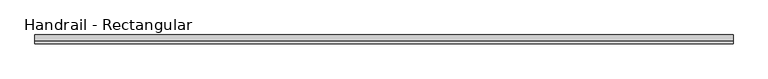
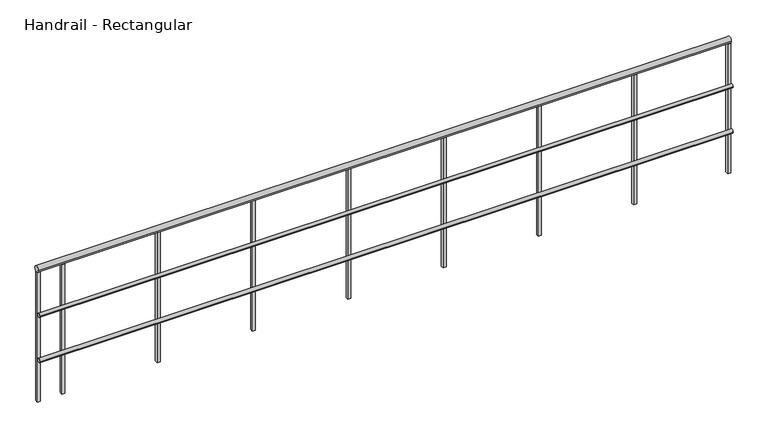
"""IFC4 building model written with IfcOpenShell, lengths in millimetres: railing geometry, Handrail - Rectangular."""

from ifc_helpers import new_model, si_unit, point, frame, frame_2d, origin, place, context, project, spatial, polyline, circle_curve, trimmed, segment, composite_curve, outline, extrude, source, transform, mapped, element, save


def handrail_rectangular_58c217f0(model_context):
    return source(origin(), model_context, "Body", "SweptSolid", [
        extrude(outline(composite_curve([segment(trimmed(circle_curve(frame_2d((-35578.5683133, 9740.9)), 12.7), [point((-35591.2683133, 9740.9))], [point((-35565.8683133, 9740.9))], False, "CARTESIAN"), True, "CONTINUOUS"), segment(trimmed(circle_curve(frame_2d((-35578.5683133, 9740.9)), 12.7), [point((-35565.8683133, 9740.9))], [point((-35591.2683133, 9740.9))], False, "CARTESIAN"), True, "CONTINUOUS")], self_intersect=False)), frame((-30440.2839563, 0.0, 0.0), z_axis=(1.0, 0.0, 0.0), x_axis=(0.0, 1.0, 0.0)), (0.0, 0.0, 1.0), 4432.3),
        extrude(outline(composite_curve([segment(trimmed(circle_curve(frame_2d((-35578.5683133, 9436.1)), 12.7), [point((-35591.2683133, 9436.1))], [point((-35565.8683133, 9436.1))], False, "CARTESIAN"), True, "CONTINUOUS"), segment(trimmed(circle_curve(frame_2d((-35578.5683133, 9436.1)), 12.7), [point((-35565.8683133, 9436.1))], [point((-35591.2683133, 9436.1))], False, "CARTESIAN"), True, "CONTINUOUS")], self_intersect=False)), frame((-30440.2839563, 0.0, 0.0), z_axis=(1.0, 0.0, 0.0), x_axis=(0.0, 1.0, 0.0)), (0.0, 0.0, 1.0), 4432.3),
        extrude(outline(composite_curve([segment(trimmed(circle_curve(frame_2d((-35553.1683133, 10039.35)), 19.05), [point((-35572.2183133, 10039.35))], [point((-35534.1183133, 10039.35))], False, "CARTESIAN"), True, "CONTINUOUS"), segment(trimmed(circle_curve(frame_2d((-35553.1683133, 10039.35)), 19.05), [point((-35534.1183133, 10039.35))], [point((-35572.2183133, 10039.35))], False, "CARTESIAN"), True, "CONTINUOUS")], self_intersect=False)), frame((-30440.2839563, 0.0, 0.0), z_axis=(1.0, 0.0, 0.0), x_axis=(0.0, 1.0, 0.0)), (0.0, 0.0, 1.0), 4432.3),
        extrude(outline(polyline([(-30265.6589563, -35543.6433133), (-30265.6589563, -35562.6933133), (-30284.7089563, -35562.6933133), (-30284.7089563, -35543.6433133), (-30265.6589563, -35543.6433133)])), frame((0.0, 0.0, 9144.0), z_axis=(0.0, 0.0, 1.0), x_axis=(1.0, 0.0, 0.0)), (0.0, 0.0, 1.0), 876.3),
        extrude(outline(polyline([(-29656.0589563, -35543.6433133), (-29656.0589563, -35562.6933133), (-29675.1089563, -35562.6933133), (-29675.1089563, -35543.6433133), (-29656.0589563, -35543.6433133)])), frame((0.0, 0.0, 9144.0), z_axis=(0.0, 0.0, 1.0), x_axis=(1.0, 0.0, 0.0)), (0.0, 0.0, 1.0), 876.3),
        extrude(outline(polyline([(-29046.4589563, -35543.6433133), (-29046.4589563, -35562.6933133), (-29065.5089563, -35562.6933133), (-29065.5089563, -35543.6433133), (-29046.4589563, -35543.6433133)])), frame((0.0, 0.0, 9144.0), z_axis=(0.0, 0.0, 1.0), x_axis=(1.0, 0.0, 0.0)), (0.0, 0.0, 1.0), 876.3),
        extrude(outline(polyline([(-28436.8589563, -35543.6433133), (-28436.8589563, -35562.6933133), (-28455.9089563, -35562.6933133), (-28455.9089563, -35543.6433133), (-28436.8589563, -35543.6433133)])), frame((0.0, 0.0, 9144.0), z_axis=(0.0, 0.0, 1.0), x_axis=(1.0, 0.0, 0.0)), (0.0, 0.0, 1.0), 876.3),
        extrude(outline(polyline([(-27827.2589563, -35543.6433133), (-27827.2589563, -35562.6933133), (-27846.3089563, -35562.6933133), (-27846.3089563, -35543.6433133), (-27827.2589563, -35543.6433133)])), frame((0.0, 0.0, 9144.0), z_axis=(0.0, 0.0, 1.0), x_axis=(1.0, 0.0, 0.0)), (0.0, 0.0, 1.0), 876.3),
        extrude(outline(polyline([(-27217.6589563, -35543.6433133), (-27217.6589563, -35562.6933133), (-27236.7089563, -35562.6933133), (-27236.7089563, -35543.6433133), (-27217.6589563, -35543.6433133)])), frame((0.0, 0.0, 9144.0), z_axis=(0.0, 0.0, 1.0), x_axis=(1.0, 0.0, 0.0)), (0.0, 0.0, 1.0), 876.3),
        extrude(outline(polyline([(-26608.0589563, -35543.6433133), (-26608.0589563, -35562.6933133), (-26627.1089563, -35562.6933133), (-26627.1089563, -35543.6433133), (-26608.0589563, -35543.6433133)])), frame((0.0, 0.0, 9144.0), z_axis=(0.0, 0.0, 1.0), x_axis=(1.0, 0.0, 0.0)), (0.0, 0.0, 1.0), 876.3),
        extrude(outline(polyline([(-30421.2339563, -35543.6433133), (-30421.2339563, -35562.6933133), (-30440.2839563, -35562.6933133), (-30440.2839563, -35543.6433133), (-30421.2339563, -35543.6433133)])), frame((0.0, 0.0, 9144.0), z_axis=(0.0, 0.0, 1.0), x_axis=(1.0, 0.0, 0.0)), (0.0, 0.0, 1.0), 876.3),
        extrude(outline(polyline([(-26007.9839563, -35543.6433133), (-26007.9839563, -35562.6933133), (-26027.0339563, -35562.6933133), (-26027.0339563, -35543.6433133), (-26007.9839563, -35543.6433133)])), frame((0.0, 0.0, 9144.0), z_axis=(0.0, 0.0, 1.0), x_axis=(1.0, 0.0, 0.0)), (0.0, 0.0, 1.0), 876.3),
    ])


if __name__ == "__main__":
    model = new_model("IFC4")
    model_context = context("Model", 3, world=origin())
    ifc_project = project(units=[si_unit("LENGTHUNIT", "METRE", prefix="MILLI")], contexts=[model_context])
    site = spatial("IfcSite", under=ifc_project)
    building = spatial("IfcBuilding", under=site)
    placement = place(None, origin())
    handrail_rectangular_shape = handrail_rectangular_58c217f0(model_context)
    element("IfcRailing", 1, ObjectType="Handrail - Rectangular", at=placement, inside=building, context=model_context, shape_type="MappedRepresentation", body=[
        mapped(handrail_rectangular_shape, transform((0.0, 0.0, 0.0), x_axis=(1.0, 0.0, 0.0), y_axis=(0.0, 1.0, 0.0), z_axis=(0.0, 0.0, 1.0))),
    ])
    save(model, "model.ifc")
